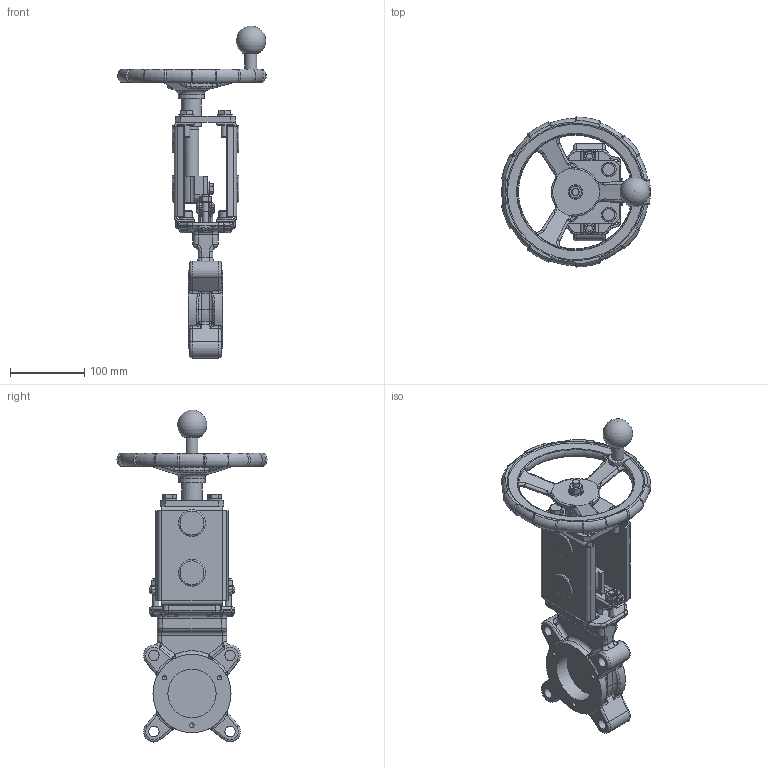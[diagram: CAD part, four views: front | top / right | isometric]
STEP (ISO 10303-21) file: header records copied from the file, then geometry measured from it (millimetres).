
FILE_DESCRIPTION(('STEP AP203'),'1');
FILE_NAME('G:/KONSTRUK/3-d block för CD/WB VALVE/HAND WHEEL/65/WB11-DN65-PN10-HW.stp','2016-05-09T14:52:04',(' '),(' '),'Spatial InterOp 3D',' ',' ');
FILE_SCHEMA(('CONFIG_CONTROL_DESIGN'));
Length unit declared in the file: millimetre
Products named in the file (3): WB11-DN65-PN10-HW; Valve bodyWB11, DN65, PN10; Beam
Assembly tree (3 placements, depth 2):
  WB11-DN65-PN10-HW
    Valve bodyWB11, DN65, PN10
    Beam  x2
Bounding box: 200.06 x 201.96 x 446.76 mm (x, y, z)
Volume: 1197207.9 mm3; surface area: 303437.8 mm2
Topology: 11 solids, 19 shells, 1168 faces, 2727 edges, 1640 vertices
Faces by surface type: plane 393, cylinder 298, bspline 221, torus 120, cone 115, sphere 21
Full cylindrical faces by diameter (mm): 6 x3, 8 x2, 8.4 x2, 9.01 x2, 10 x7, 10.5 x4, 10.985 x9, 12.2 x1, 14 x6, 15.835 x4, 16 x3, 18.585 x2, 19.4 x2, 19.5 x2, 19.74 x9, 20 x6, 27 x2, 28 x4, 35 x1, 36 x4, 65 x2, 185 x2
Entity records: 93630 total; most frequent: CARTESIAN_POINT 70580, ORIENTED_EDGE 4884, DIRECTION 4099, EDGE_CURVE 2442, AXIS2_PLACEMENT_3D 1664, VERTEX_POINT 1550, EDGE_LOOP 1369, FACE_OUTER_BOUND 1220
